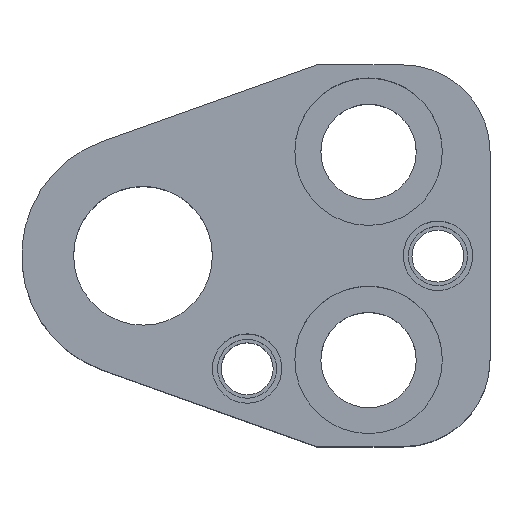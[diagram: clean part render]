
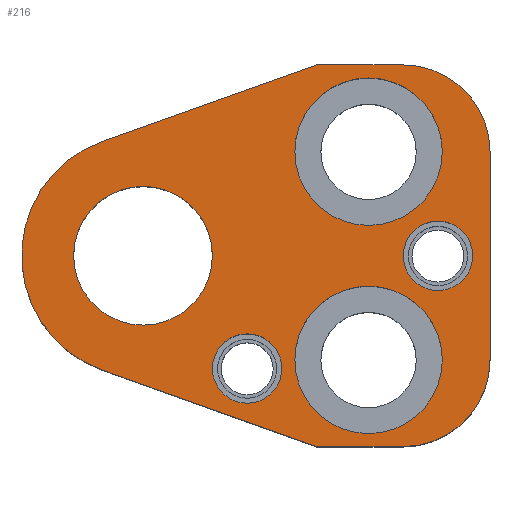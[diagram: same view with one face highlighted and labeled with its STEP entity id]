
A CAD part, top view. The second image highlights one B-rep face of the part: STEP entity #216.
In plain terms, the highlighted planar face has unit normal (0, 0, 1).
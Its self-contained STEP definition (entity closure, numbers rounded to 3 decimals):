
#104=FACE_BOUND('',#309,.T.);
#105=FACE_BOUND('',#310,.T.);
#106=FACE_BOUND('',#311,.T.);
#107=FACE_BOUND('',#312,.T.);
#108=FACE_BOUND('',#313,.T.);
#109=FACE_BOUND('',#314,.T.);
#148=CIRCLE('',#832,10.);
#150=CIRCLE('',#836,10.);
#160=CIRCLE('',#852,8.5);
#162=CIRCLE('',#855,8.5);
#164=CIRCLE('',#859,8.5);
#166=CIRCLE('',#862,8.5);
#168=CIRCLE('',#866,14.);
#169=CIRCLE('',#867,4.);
#170=CIRCLE('',#868,4.);
#171=CIRCLE('',#869,4.);
#172=CIRCLE('',#870,4.);
#173=CIRCLE('',#871,8.);
#174=CIRCLE('',#872,8.);
#216=ADVANCED_FACE('',(#104,#105,#106,#107,#108,#109),#248,.T.);
#248=PLANE('',#873);
#309=EDGE_LOOP('',(#409,#410,#411,#412,#413,#414,#415,#416));
#310=EDGE_LOOP('',(#417,#418));
#311=EDGE_LOOP('',(#419,#420));
#312=EDGE_LOOP('',(#421,#422));
#313=EDGE_LOOP('',(#423,#424));
#314=EDGE_LOOP('',(#425,#426));
#409=ORIENTED_EDGE('',*,*,#666,.T.);
#410=ORIENTED_EDGE('',*,*,#627,.T.);
#411=ORIENTED_EDGE('',*,*,#631,.T.);
#412=ORIENTED_EDGE('',*,*,#634,.T.);
#413=ORIENTED_EDGE('',*,*,#637,.T.);
#414=ORIENTED_EDGE('',*,*,#640,.T.);
#415=ORIENTED_EDGE('',*,*,#667,.T.);
#416=ORIENTED_EDGE('',*,*,#668,.T.);
#417=ORIENTED_EDGE('',*,*,#669,.F.);
#418=ORIENTED_EDGE('',*,*,#670,.F.);
#419=ORIENTED_EDGE('',*,*,#671,.F.);
#420=ORIENTED_EDGE('',*,*,#672,.F.);
#421=ORIENTED_EDGE('',*,*,#664,.F.);
#422=ORIENTED_EDGE('',*,*,#660,.F.);
#423=ORIENTED_EDGE('',*,*,#658,.F.);
#424=ORIENTED_EDGE('',*,*,#654,.F.);
#425=ORIENTED_EDGE('',*,*,#673,.T.);
#426=ORIENTED_EDGE('',*,*,#674,.T.);
#558=VERTEX_POINT('',#1171);
#559=VERTEX_POINT('',#1173);
#562=VERTEX_POINT('',#1180);
#564=VERTEX_POINT('',#1186);
#566=VERTEX_POINT('',#1192);
#568=VERTEX_POINT('',#1198);
#577=VERTEX_POINT('',#1227);
#578=VERTEX_POINT('',#1228);
#581=VERTEX_POINT('',#1240);
#582=VERTEX_POINT('',#1241);
#585=VERTEX_POINT('',#1253);
#586=VERTEX_POINT('',#1255);
#587=VERTEX_POINT('',#1258);
#588=VERTEX_POINT('',#1259);
#589=VERTEX_POINT('',#1262);
#590=VERTEX_POINT('',#1263);
#591=VERTEX_POINT('',#1266);
#592=VERTEX_POINT('',#1267);
#627=EDGE_CURVE('',#559,#558,#731,.T.);
#631=EDGE_CURVE('',#558,#562,#148,.T.);
#634=EDGE_CURVE('',#562,#564,#736,.T.);
#637=EDGE_CURVE('',#564,#566,#150,.T.);
#640=EDGE_CURVE('',#566,#568,#740,.T.);
#654=EDGE_CURVE('',#577,#578,#160,.T.);
#658=EDGE_CURVE('',#578,#577,#162,.T.);
#660=EDGE_CURVE('',#581,#582,#164,.T.);
#664=EDGE_CURVE('',#582,#581,#166,.T.);
#666=EDGE_CURVE('',#585,#559,#750,.T.);
#667=EDGE_CURVE('',#568,#586,#751,.T.);
#668=EDGE_CURVE('',#586,#585,#168,.T.);
#669=EDGE_CURVE('',#587,#588,#169,.T.);
#670=EDGE_CURVE('',#588,#587,#170,.T.);
#671=EDGE_CURVE('',#589,#590,#171,.T.);
#672=EDGE_CURVE('',#590,#589,#172,.T.);
#673=EDGE_CURVE('',#591,#592,#173,.T.);
#674=EDGE_CURVE('',#592,#591,#174,.T.);
#731=LINE('',#1172,#781);
#736=LINE('',#1187,#786);
#740=LINE('',#1199,#790);
#750=LINE('',#1252,#800);
#751=LINE('',#1254,#801);
#781=VECTOR('',#929,1.);
#786=VECTOR('',#942,1.);
#790=VECTOR('',#954,1.);
#800=VECTOR('',#1018,1.);
#801=VECTOR('',#1019,1.);
#832=AXIS2_PLACEMENT_3D('',#1181,#935,#936);
#836=AXIS2_PLACEMENT_3D('',#1193,#947,#948);
#852=AXIS2_PLACEMENT_3D('',#1226,#986,#987);
#855=AXIS2_PLACEMENT_3D('',#1235,#994,#995);
#859=AXIS2_PLACEMENT_3D('',#1239,#1002,#1003);
#862=AXIS2_PLACEMENT_3D('',#1248,#1010,#1011);
#866=AXIS2_PLACEMENT_3D('',#1256,#1020,#1021);
#867=AXIS2_PLACEMENT_3D('',#1257,#1022,#1023);
#868=AXIS2_PLACEMENT_3D('',#1260,#1024,#1025);
#869=AXIS2_PLACEMENT_3D('',#1261,#1026,#1027);
#870=AXIS2_PLACEMENT_3D('',#1264,#1028,#1029);
#871=AXIS2_PLACEMENT_3D('',#1265,#1030,#1031);
#872=AXIS2_PLACEMENT_3D('',#1268,#1032,#1033);
#873=AXIS2_PLACEMENT_3D('',#1269,#1034,#1035);
#929=DIRECTION('',(1.,0.,0.));
#935=DIRECTION('',(0.,0.,1.));
#936=DIRECTION('',(-0.707,0.707,0.));
#942=DIRECTION('',(0.,1.,0.));
#947=DIRECTION('',(0.,0.,1.));
#948=DIRECTION('',(-0.707,-0.707,0.));
#954=DIRECTION('',(-1.,0.,0.));
#986=DIRECTION('',(0.,0.,1.));
#987=DIRECTION('',(-1.,0.,0.));
#994=DIRECTION('',(0.,0.,1.));
#995=DIRECTION('',(1.,0.,0.));
#1002=DIRECTION('',(0.,0.,1.));
#1003=DIRECTION('',(-1.,0.,0.));
#1010=DIRECTION('',(0.,0.,1.));
#1011=DIRECTION('',(1.,0.,0.));
#1018=DIRECTION('',(0.942,-0.336,0.));
#1019=DIRECTION('',(-0.942,-0.336,0.));
#1020=DIRECTION('',(0.,0.,1.));
#1021=DIRECTION('',(1.,0.,0.));
#1022=DIRECTION('',(0.,0.,1.));
#1023=DIRECTION('',(1.,0.,0.));
#1024=DIRECTION('',(0.,0.,1.));
#1025=DIRECTION('',(-1.,0.,0.));
#1026=DIRECTION('',(0.,0.,1.));
#1027=DIRECTION('',(1.,0.,0.));
#1028=DIRECTION('',(0.,0.,1.));
#1029=DIRECTION('',(-1.,0.,0.));
#1030=DIRECTION('',(0.,0.,-1.));
#1031=DIRECTION('',(-1.,0.,0.));
#1032=DIRECTION('',(0.,0.,-1.));
#1033=DIRECTION('',(1.,0.,0.));
#1034=DIRECTION('',(0.,0.,1.));
#1035=DIRECTION('',(0.942,-0.336,0.));
#1171=CARTESIAN_POINT('',(30.,-22.,30.));
#1172=CARTESIAN_POINT('',(20.,-22.,30.));
#1173=CARTESIAN_POINT('',(20.,-22.,30.));
#1180=CARTESIAN_POINT('',(40.,-12.,30.));
#1181=CARTESIAN_POINT('',(30.,-12.,30.));
#1186=CARTESIAN_POINT('',(40.,12.,30.));
#1187=CARTESIAN_POINT('',(40.,12.,30.));
#1192=CARTESIAN_POINT('',(30.,22.,30.));
#1193=CARTESIAN_POINT('',(30.,12.,30.));
#1198=CARTESIAN_POINT('',(20.,22.,30.));
#1199=CARTESIAN_POINT('',(20.,22.,30.));
#1226=CARTESIAN_POINT('',(26.,-12.,30.));
#1227=CARTESIAN_POINT('',(26.,-20.5,30.));
#1228=CARTESIAN_POINT('',(26.,-3.5,30.));
#1235=CARTESIAN_POINT('',(26.,-12.,30.));
#1239=CARTESIAN_POINT('',(26.,12.,30.));
#1240=CARTESIAN_POINT('',(26.,3.5,30.));
#1241=CARTESIAN_POINT('',(26.,20.5,30.));
#1248=CARTESIAN_POINT('',(26.,12.,30.));
#1252=CARTESIAN_POINT('',(20.,-22.,30.));
#1253=CARTESIAN_POINT('',(-4.704,-13.186,30.));
#1254=CARTESIAN_POINT('',(20.,22.,30.));
#1255=CARTESIAN_POINT('',(-4.704,13.186,30.));
#1256=CARTESIAN_POINT('',(0.,0.,30.));
#1257=CARTESIAN_POINT('',(34.,0.,30.));
#1258=CARTESIAN_POINT('',(34.,4.,30.));
#1259=CARTESIAN_POINT('',(34.,-4.,30.));
#1260=CARTESIAN_POINT('',(34.,0.,30.));
#1261=CARTESIAN_POINT('',(12.,-13.,30.));
#1262=CARTESIAN_POINT('',(12.,-9.,30.));
#1263=CARTESIAN_POINT('',(12.,-17.,30.));
#1264=CARTESIAN_POINT('',(12.,-13.,30.));
#1265=CARTESIAN_POINT('',(0.,0.,30.));
#1266=CARTESIAN_POINT('',(0.,8.,30.));
#1267=CARTESIAN_POINT('',(0.,-8.,30.));
#1268=CARTESIAN_POINT('',(0.,0.,30.));
#1269=CARTESIAN_POINT('',(-4.704,-13.186,30.));
